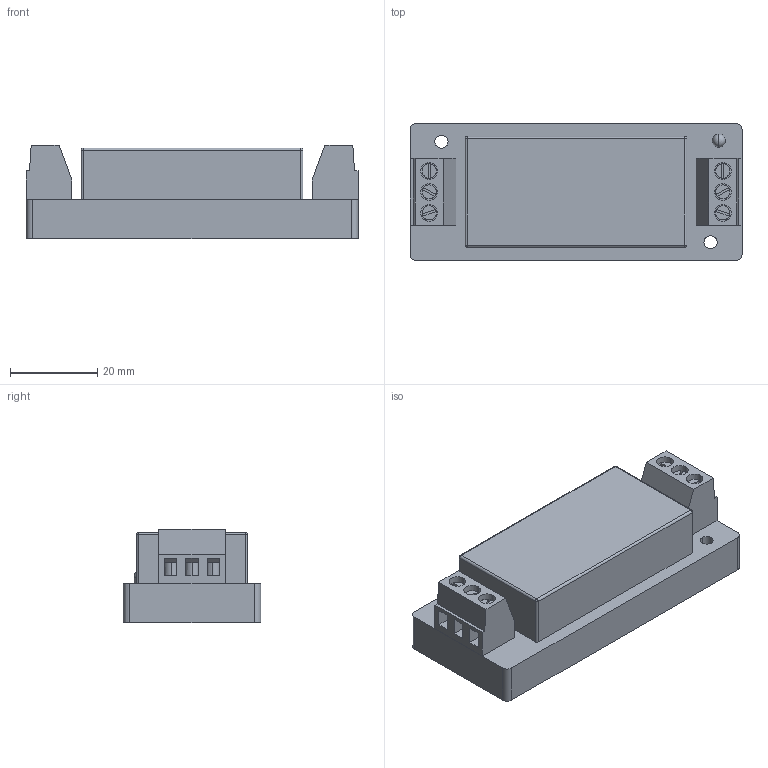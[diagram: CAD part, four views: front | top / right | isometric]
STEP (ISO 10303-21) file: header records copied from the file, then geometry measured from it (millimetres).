
FILE_DESCRIPTION(/* description */ (''),/* implementation_level */ '2;1');
FILE_NAME(/* name */ 'FD60-XXSXXB3R2(T).stp',/* time_stamp */ '2025-09-09T10:33:02+08:00',/* author */ (''),/* organization */ (''),/* preprocessor_version */ 'ST-DEVELOPER v16',/* originating_system */ 'SIEMENS PLM Software NX 10.0',/* authorisation */ '123');
FILE_SCHEMA (('AUTOMOTIVE_DESIGN { 1 0 10303 214 3 1 1 1 }'));
Length unit declared in the file: millimetre
Products named in the file (1): admi9E78CA83aq3l
Bounding box: 76 x 31.5 x 21.5 mm (x, y, z)
Volume: 39526.6 mm3; surface area: 14914.6 mm2
Topology: 16 solids, 16 shells, 183 faces, 460 edges, 332 vertices
Faces by surface type: plane 111, cylinder 60, sphere 12
Full cylindrical faces by diameter (mm): 1 x12
Entity records: 6412 total; most frequent: DIRECTION 954, CARTESIAN_POINT 912, ORIENTED_EDGE 832, EDGE_CURVE 416, AXIS2_PLACEMENT_3D 354, VERTEX_POINT 281, LINE 246, VECTOR 246
